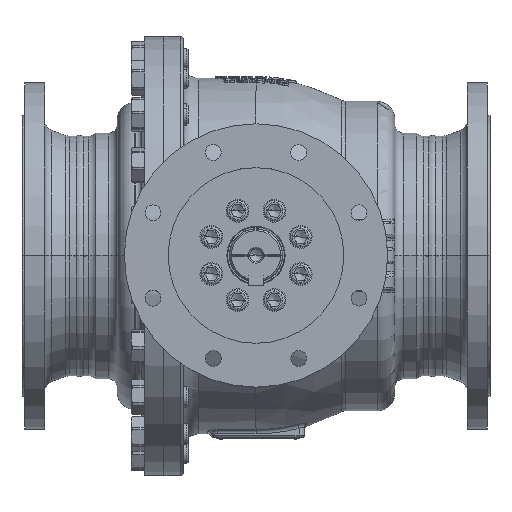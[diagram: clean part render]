
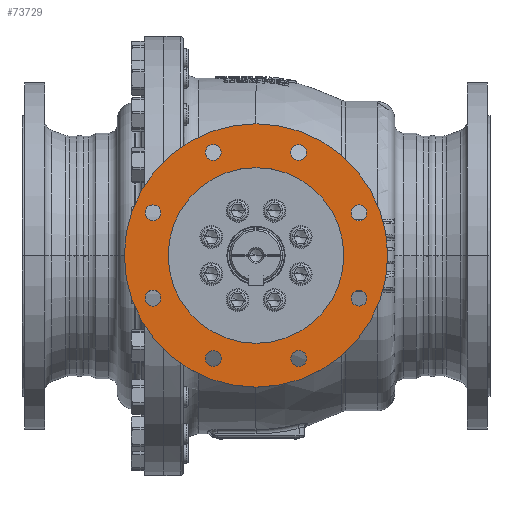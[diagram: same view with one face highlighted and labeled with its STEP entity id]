
A CAD part, top view. The second image highlights one B-rep face of the part: STEP entity #73729.
In plain terms, the highlighted planar face has unit normal (0, 0, 1).
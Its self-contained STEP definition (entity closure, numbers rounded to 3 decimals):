
#8668=CARTESIAN_POINT('',(0.,0.,349.));
#8669=DIRECTION('',(0.,0.,1.));
#8670=DIRECTION('',(1.,0.,0.));
#8671=AXIS2_PLACEMENT_3D('',#8668,#8669,#8670);
#8673=CARTESIAN_POINT('',(0.,0.,349.));
#8674=DIRECTION('',(0.,0.,-1.));
#8675=DIRECTION('',(1.,0.,0.));
#8676=AXIS2_PLACEMENT_3D('',#8673,#8674,#8675);
#8678=CARTESIAN_POINT('',(-117.333,48.601,349.));
#8679=DIRECTION('',(0.,0.,-1.));
#8680=DIRECTION('',(-1.,0.,0.));
#8681=AXIS2_PLACEMENT_3D('',#8678,#8679,#8680);
#8683=CARTESIAN_POINT('',(-117.333,48.601,349.));
#8684=DIRECTION('',(0.,0.,-1.));
#8685=DIRECTION('',(1.,0.,0.));
#8686=AXIS2_PLACEMENT_3D('',#8683,#8684,#8685);
#8688=CARTESIAN_POINT('',(-48.601,117.333,349.));
#8689=DIRECTION('',(0.,0.,-1.));
#8690=DIRECTION('',(-0.707,0.707,0.));
#8691=AXIS2_PLACEMENT_3D('',#8688,#8689,#8690);
#8693=CARTESIAN_POINT('',(-48.601,117.333,349.));
#8694=DIRECTION('',(0.,0.,-1.));
#8695=DIRECTION('',(0.707,-0.707,0.));
#8696=AXIS2_PLACEMENT_3D('',#8693,#8694,#8695);
#8698=CARTESIAN_POINT('',(48.601,117.333,349.));
#8699=DIRECTION('',(0.,0.,-1.));
#8700=DIRECTION('',(0.,1.,0.));
#8701=AXIS2_PLACEMENT_3D('',#8698,#8699,#8700);
#8703=CARTESIAN_POINT('',(48.601,117.333,349.));
#8704=DIRECTION('',(0.,0.,-1.));
#8705=DIRECTION('',(0.,-1.,0.));
#8706=AXIS2_PLACEMENT_3D('',#8703,#8704,#8705);
#8708=CARTESIAN_POINT('',(117.333,48.601,349.));
#8709=DIRECTION('',(0.,0.,-1.));
#8710=DIRECTION('',(0.707,0.707,0.));
#8711=AXIS2_PLACEMENT_3D('',#8708,#8709,#8710);
#8713=CARTESIAN_POINT('',(117.333,48.601,349.));
#8714=DIRECTION('',(0.,0.,-1.));
#8715=DIRECTION('',(-0.707,-0.707,0.));
#8716=AXIS2_PLACEMENT_3D('',#8713,#8714,#8715);
#8718=CARTESIAN_POINT('',(117.333,-48.601,349.));
#8719=DIRECTION('',(0.,0.,-1.));
#8720=DIRECTION('',(1.,0.,0.));
#8721=AXIS2_PLACEMENT_3D('',#8718,#8719,#8720);
#8723=CARTESIAN_POINT('',(117.333,-48.601,349.));
#8724=DIRECTION('',(0.,0.,-1.));
#8725=DIRECTION('',(-1.,0.,0.));
#8726=AXIS2_PLACEMENT_3D('',#8723,#8724,#8725);
#8728=CARTESIAN_POINT('',(48.601,-117.333,349.));
#8729=DIRECTION('',(0.,0.,-1.));
#8730=DIRECTION('',(0.707,-0.707,0.));
#8731=AXIS2_PLACEMENT_3D('',#8728,#8729,#8730);
#8733=CARTESIAN_POINT('',(48.601,-117.333,349.));
#8734=DIRECTION('',(0.,0.,-1.));
#8735=DIRECTION('',(-0.707,0.707,0.));
#8736=AXIS2_PLACEMENT_3D('',#8733,#8734,#8735);
#8738=CARTESIAN_POINT('',(-48.601,-117.333,349.));
#8739=DIRECTION('',(0.,0.,-1.));
#8740=DIRECTION('',(0.,-1.,0.));
#8741=AXIS2_PLACEMENT_3D('',#8738,#8739,#8740);
#8743=CARTESIAN_POINT('',(-48.601,-117.333,349.));
#8744=DIRECTION('',(0.,0.,-1.));
#8745=DIRECTION('',(0.,1.,0.));
#8746=AXIS2_PLACEMENT_3D('',#8743,#8744,#8745);
#8748=CARTESIAN_POINT('',(-117.333,-48.601,349.));
#8749=DIRECTION('',(0.,0.,-1.));
#8750=DIRECTION('',(-0.707,-0.707,0.));
#8751=AXIS2_PLACEMENT_3D('',#8748,#8749,#8750);
#8753=CARTESIAN_POINT('',(-117.333,-48.601,349.));
#8754=DIRECTION('',(0.,0.,-1.));
#8755=DIRECTION('',(0.707,0.707,0.));
#8756=AXIS2_PLACEMENT_3D('',#8753,#8754,#8755);
#8762=CARTESIAN_POINT('',(0.,0.,349.));
#8763=DIRECTION('',(0.,0.,-1.));
#8764=DIRECTION('',(1.,0.,0.));
#8765=AXIS2_PLACEMENT_3D('',#8762,#8763,#8764);
#8771=CARTESIAN_POINT('',(0.,0.,349.));
#8772=DIRECTION('',(0.,0.,1.));
#8773=DIRECTION('',(1.,0.,0.));
#8774=AXIS2_PLACEMENT_3D('',#8771,#8772,#8773);
#58116=CARTESIAN_POINT('',(100.,0.,349.));
#58118=VERTEX_POINT('',#58116);
#58120=CARTESIAN_POINT('',(-100.,0.,349.));
#58122=VERTEX_POINT('',#58120);
#58124=CARTESIAN_POINT('',(150.,0.,349.));
#58125=CARTESIAN_POINT('',(-150.,0.,349.));
#58126=VERTEX_POINT('',#58124);
#58127=VERTEX_POINT('',#58125);
#58260=CARTESIAN_POINT('',(-126.333,48.601,349.));
#58261=CARTESIAN_POINT('',(-108.333,48.601,349.));
#58262=VERTEX_POINT('',#58260);
#58263=VERTEX_POINT('',#58261);
#58264=CARTESIAN_POINT('',(-54.965,123.697,349.));
#58265=CARTESIAN_POINT('',(-42.237,110.969,349.));
#58266=VERTEX_POINT('',#58264);
#58267=VERTEX_POINT('',#58265);
#58268=CARTESIAN_POINT('',(48.601,126.333,349.));
#58269=CARTESIAN_POINT('',(48.601,108.333,349.));
#58270=VERTEX_POINT('',#58268);
#58271=VERTEX_POINT('',#58269);
#58272=CARTESIAN_POINT('',(123.697,54.965,349.));
#58273=CARTESIAN_POINT('',(110.969,42.237,349.));
#58274=VERTEX_POINT('',#58272);
#58275=VERTEX_POINT('',#58273);
#58276=CARTESIAN_POINT('',(126.333,-48.601,349.));
#58277=CARTESIAN_POINT('',(108.333,-48.601,349.));
#58278=VERTEX_POINT('',#58276);
#58279=VERTEX_POINT('',#58277);
#58280=CARTESIAN_POINT('',(54.965,-123.697,349.));
#58281=CARTESIAN_POINT('',(42.237,-110.969,349.));
#58282=VERTEX_POINT('',#58280);
#58283=VERTEX_POINT('',#58281);
#58284=CARTESIAN_POINT('',(-48.601,-126.333,349.));
#58285=CARTESIAN_POINT('',(-48.601,-108.333,349.));
#58286=VERTEX_POINT('',#58284);
#58287=VERTEX_POINT('',#58285);
#58288=CARTESIAN_POINT('',(-123.697,-54.965,349.));
#58289=CARTESIAN_POINT('',(-110.969,-42.237,349.));
#58290=VERTEX_POINT('',#58288);
#58291=VERTEX_POINT('',#58289);
#73666=CARTESIAN_POINT('',(0.,0.,349.));
#73667=DIRECTION('',(0.,0.,1.));
#73668=DIRECTION('',(1.,0.,0.));
#73669=AXIS2_PLACEMENT_3D('',#73666,#73667,#73668);
#73670=PLANE('',#73669);
#73671=ORIENTED_EDGE('',*,*,#73645,.F.);
#73672=ORIENTED_EDGE('',*,*,#73661,.T.);
#73673=EDGE_LOOP('',(#73671,#73672));
#73674=FACE_OUTER_BOUND('',#73673,.F.);
#73676=ORIENTED_EDGE('',*,*,#73675,.F.);
#73678=ORIENTED_EDGE('',*,*,#73677,.T.);
#73679=EDGE_LOOP('',(#73676,#73678));
#73680=FACE_BOUND('',#73679,.F.);
#73682=ORIENTED_EDGE('',*,*,#73681,.F.);
#73684=ORIENTED_EDGE('',*,*,#73683,.F.);
#73685=EDGE_LOOP('',(#73682,#73684));
#73686=FACE_BOUND('',#73685,.F.);
#73688=ORIENTED_EDGE('',*,*,#73687,.F.);
#73690=ORIENTED_EDGE('',*,*,#73689,.F.);
#73691=EDGE_LOOP('',(#73688,#73690));
#73692=FACE_BOUND('',#73691,.F.);
#73694=ORIENTED_EDGE('',*,*,#73693,.F.);
#73696=ORIENTED_EDGE('',*,*,#73695,.F.);
#73697=EDGE_LOOP('',(#73694,#73696));
#73698=FACE_BOUND('',#73697,.F.);
#73700=ORIENTED_EDGE('',*,*,#73699,.F.);
#73702=ORIENTED_EDGE('',*,*,#73701,.F.);
#73703=EDGE_LOOP('',(#73700,#73702));
#73704=FACE_BOUND('',#73703,.F.);
#73706=ORIENTED_EDGE('',*,*,#73705,.F.);
#73708=ORIENTED_EDGE('',*,*,#73707,.F.);
#73709=EDGE_LOOP('',(#73706,#73708));
#73710=FACE_BOUND('',#73709,.F.);
#73712=ORIENTED_EDGE('',*,*,#73711,.F.);
#73714=ORIENTED_EDGE('',*,*,#73713,.F.);
#73715=EDGE_LOOP('',(#73712,#73714));
#73716=FACE_BOUND('',#73715,.F.);
#73718=ORIENTED_EDGE('',*,*,#73717,.F.);
#73720=ORIENTED_EDGE('',*,*,#73719,.F.);
#73721=EDGE_LOOP('',(#73718,#73720));
#73722=FACE_BOUND('',#73721,.F.);
#73724=ORIENTED_EDGE('',*,*,#73723,.F.);
#73726=ORIENTED_EDGE('',*,*,#73725,.F.);
#73727=EDGE_LOOP('',(#73724,#73726));
#73728=FACE_BOUND('',#73727,.F.);
#73729=ADVANCED_FACE('',(#73674,#73680,#73686,#73692,#73698,#73704,#73710,
#73716,#73722,#73728),#73670,.T.);
#8672=CIRCLE('',#8671,150.);
#8677=CIRCLE('',#8676,150.);
#8682=CIRCLE('',#8681,9.);
#8687=CIRCLE('',#8686,9.);
#8692=CIRCLE('',#8691,9.);
#8697=CIRCLE('',#8696,9.);
#8702=CIRCLE('',#8701,9.);
#8707=CIRCLE('',#8706,9.);
#8712=CIRCLE('',#8711,9.);
#8717=CIRCLE('',#8716,9.);
#8722=CIRCLE('',#8721,9.);
#8727=CIRCLE('',#8726,9.);
#8732=CIRCLE('',#8731,9.);
#8737=CIRCLE('',#8736,9.);
#8742=CIRCLE('',#8741,9.);
#8747=CIRCLE('',#8746,9.);
#8752=CIRCLE('',#8751,9.);
#8757=CIRCLE('',#8756,9.);
#8766=CIRCLE('',#8765,100.);
#8775=CIRCLE('',#8774,100.);
#73645=EDGE_CURVE('',#58126,#58127,#8672,.T.);
#73661=EDGE_CURVE('',#58126,#58127,#8677,.T.);
#73675=EDGE_CURVE('',#58118,#58122,#8766,.T.);
#73677=EDGE_CURVE('',#58118,#58122,#8775,.T.);
#73681=EDGE_CURVE('',#58262,#58263,#8682,.T.);
#73683=EDGE_CURVE('',#58263,#58262,#8687,.T.);
#73687=EDGE_CURVE('',#58266,#58267,#8692,.T.);
#73689=EDGE_CURVE('',#58267,#58266,#8697,.T.);
#73693=EDGE_CURVE('',#58270,#58271,#8702,.T.);
#73695=EDGE_CURVE('',#58271,#58270,#8707,.T.);
#73699=EDGE_CURVE('',#58274,#58275,#8712,.T.);
#73701=EDGE_CURVE('',#58275,#58274,#8717,.T.);
#73705=EDGE_CURVE('',#58278,#58279,#8722,.T.);
#73707=EDGE_CURVE('',#58279,#58278,#8727,.T.);
#73711=EDGE_CURVE('',#58282,#58283,#8732,.T.);
#73713=EDGE_CURVE('',#58283,#58282,#8737,.T.);
#73717=EDGE_CURVE('',#58286,#58287,#8742,.T.);
#73719=EDGE_CURVE('',#58287,#58286,#8747,.T.);
#73723=EDGE_CURVE('',#58290,#58291,#8752,.T.);
#73725=EDGE_CURVE('',#58291,#58290,#8757,.T.);
